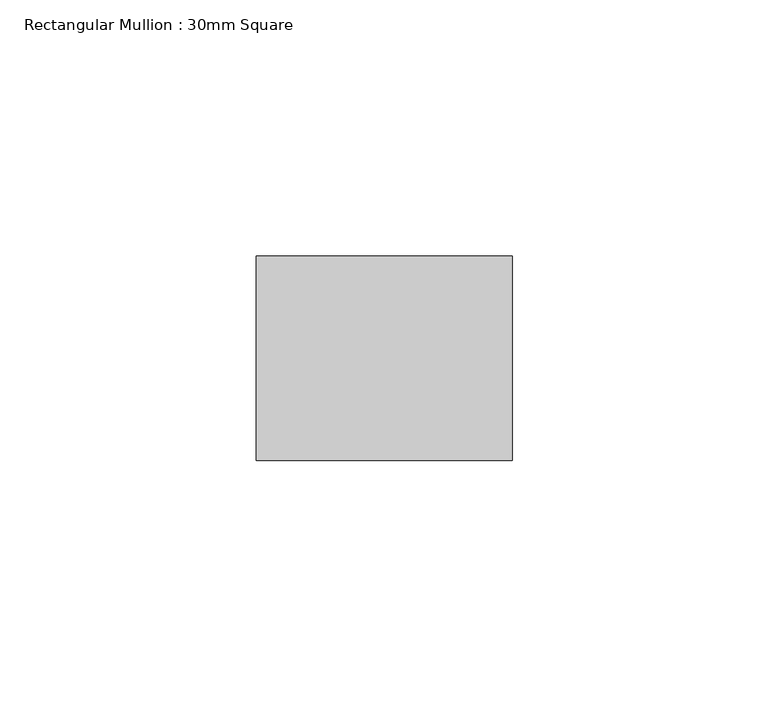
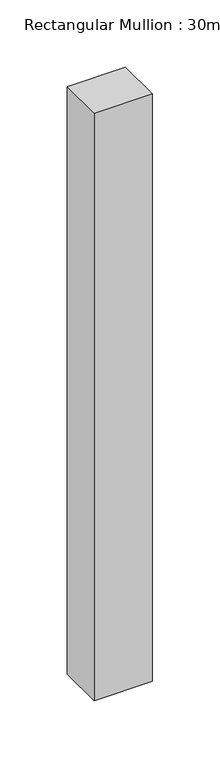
"""IFC4 building model written with IfcOpenShell, lengths in millimetres: member geometry, Rectangular Mullion : 30mm Square."""

from ifc_helpers import new_model, si_unit, frame, origin, place, context, project, spatial, polyline, outline, extrude, source, transform, mapped, element, save


def rectangular_mullion_30mm_square_2bdfadd5(model_context):
    return source(origin(), model_context, "Body", "SweptSolid", [
        extrude(outline(polyline([(25.0, 20.0), (25.0, -20.0), (-25.0, -20.0), (-25.0, 20.0), (25.0, 20.0)])), frame((0.0, 0.0, -533.4400063), z_axis=(0.0, 0.0, 1.0), x_axis=(1.0, 0.0, 0.0)), (0.0, 0.0, 1.0), 533.4400063),
    ])


if __name__ == "__main__":
    model = new_model("IFC4")
    model_context = context("Model", 3, world=origin())
    ifc_project = project(units=[si_unit("LENGTHUNIT", "METRE", prefix="MILLI")], contexts=[model_context])
    site = spatial("IfcSite", under=ifc_project)
    building = spatial("IfcBuilding", under=site)
    placement = place(None, origin())
    rectangular_mullion_30mm_square_shape = rectangular_mullion_30mm_square_2bdfadd5(model_context)
    element("IfcMember", 1, ObjectType="Rectangular Mullion : 30mm Square", at=placement, inside=building, context=model_context, shape_type="MappedRepresentation", body=[
        mapped(rectangular_mullion_30mm_square_shape, transform((0.0, 0.0, 0.0), x_axis=(1.0, 0.0, 0.0), y_axis=(0.0, 1.0, 0.0), z_axis=(0.0, 0.0, 1.0))),
    ])
    save(model, "model.ifc")
